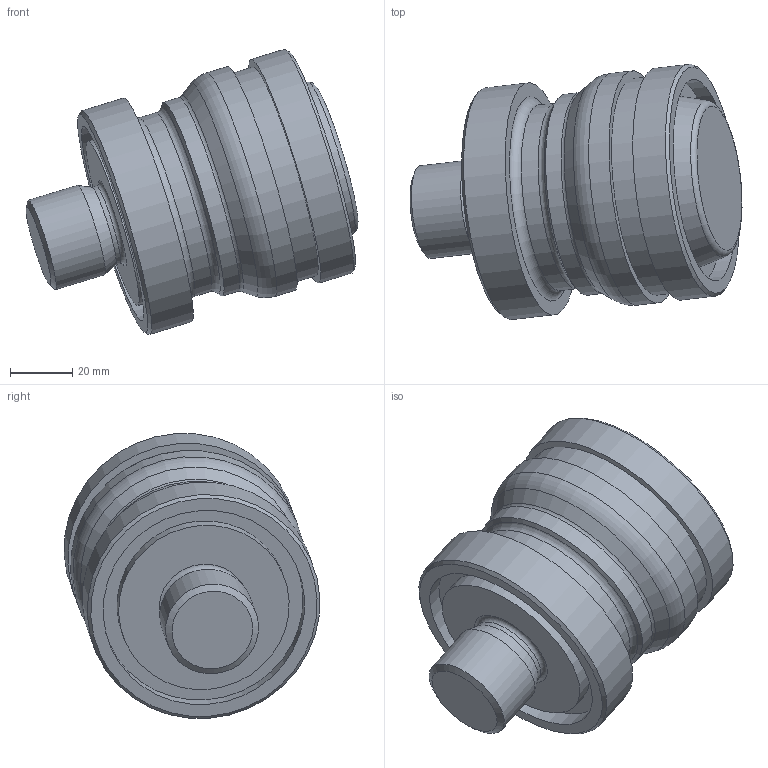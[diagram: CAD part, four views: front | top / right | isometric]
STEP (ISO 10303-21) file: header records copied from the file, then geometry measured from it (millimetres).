
FILE_DESCRIPTION((''),'2;1');
FILE_NAME('C:\Users\User\Desktop\Mastercam-harjoitukset\KV2015_Turning1\TURNING_1.stp','2020-03-24T22:56:08',(''),(''),'STEP Write','Mastercam 2020 ... CNC Software, Inc.','');
FILE_SCHEMA(('AUTOMOTIVE_DESIGN'));
Length unit declared in the file: millimetre
Products named in the file (1): None
Bounding box: 106.4 x 81.89 x 91.19 mm (x, y, z)
Volume: 292396.9 mm3; surface area: 33534.5 mm2
Topology: 1 solids, 1 shells, 34 faces, 66 edges, 42 vertices
Faces by surface type: cylinder 11, plane 10, cone 7, torus 6
Full cylindrical faces by diameter (mm): 26 x1, 30 x1, 55 x1, 60 x1, 65 x3, 70 x1, 75 x3
Entity records: 739 total; most frequent: DIRECTION 138, CARTESIAN_POINT 102, AXIS2_PLACEMENT_3D 69, ORIENTED_EDGE 66, EDGE_LOOP 66, FACE_BOUND 49, STYLED_ITEM 36, ADVANCED_FACE 34
